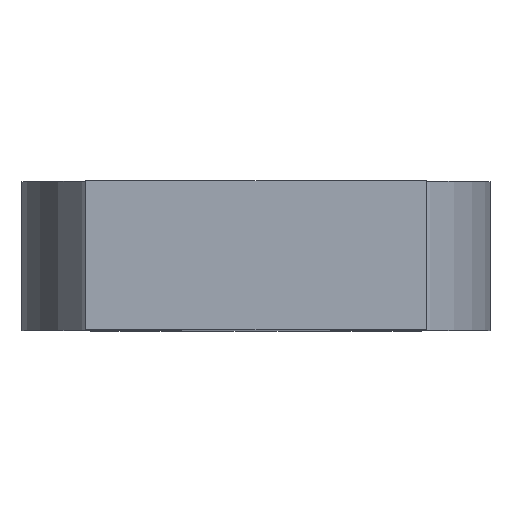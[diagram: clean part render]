
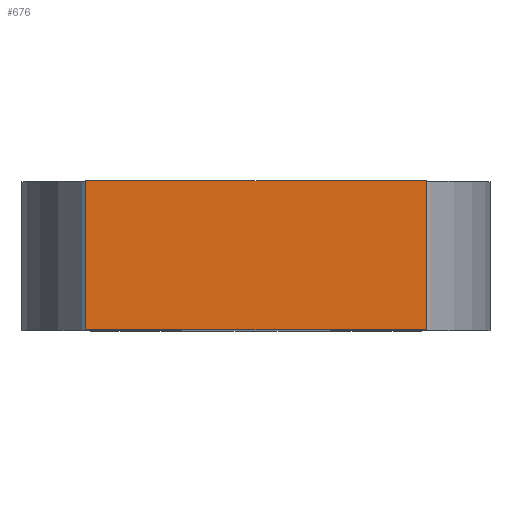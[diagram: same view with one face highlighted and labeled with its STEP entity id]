
A CAD part, top view. The second image highlights one B-rep face of the part: STEP entity #676.
In plain terms, the highlighted planar face has unit normal (0, 0, 1).
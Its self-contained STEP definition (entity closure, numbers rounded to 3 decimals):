
#51 = PLANE('',#52);
#52 = AXIS2_PLACEMENT_3D('',#53,#54,#55);
#53 = CARTESIAN_POINT('',(-30.7,6.1,-69.));
#54 = DIRECTION('',(0.,1.,0.));
#55 = DIRECTION('',(0.,-0.,1.));
#136 = VERTEX_POINT('',#137);
#137 = CARTESIAN_POINT('',(-31.6,6.1,-65.1));
#151 = PLANE('',#152);
#152 = AXIS2_PLACEMENT_3D('',#153,#154,#155);
#153 = CARTESIAN_POINT('',(-31.6,6.1,-66.5));
#154 = DIRECTION('',(1.,0.,0.));
#155 = DIRECTION('',(0.,0.,1.));
#163 = EDGE_CURVE('',#136,#164,#166,.T.);
#164 = VERTEX_POINT('',#165);
#165 = CARTESIAN_POINT('',(-28.4,6.1,-65.1));
#166 = SURFACE_CURVE('',#167,(#171,#178),.PCURVE_S1.);
#167 = LINE('',#168,#169);
#168 = CARTESIAN_POINT('',(-31.6,6.1,-65.1));
#169 = VECTOR('',#170,1.);
#170 = DIRECTION('',(1.,0.,0.));
#171 = PCURVE('',#51,#172);
#172 = DEFINITIONAL_REPRESENTATION('',(#173),#177);
#173 = LINE('',#174,#175);
#174 = CARTESIAN_POINT('',(3.9,-0.9));
#175 = VECTOR('',#176,1.);
#176 = DIRECTION('',(0.,1.));
#177 = ( GEOMETRIC_REPRESENTATION_CONTEXT(2) 
PARAMETRIC_REPRESENTATION_CONTEXT() REPRESENTATION_CONTEXT('2D SPACE',''
  ) );
#178 = PCURVE('',#179,#184);
#179 = PLANE('',#180);
#180 = AXIS2_PLACEMENT_3D('',#181,#182,#183);
#181 = CARTESIAN_POINT('',(-31.6,6.1,-65.1));
#182 = DIRECTION('',(0.,0.,1.));
#183 = DIRECTION('',(1.,0.,-0.));
#184 = DEFINITIONAL_REPRESENTATION('',(#185),#189);
#185 = LINE('',#186,#187);
#186 = CARTESIAN_POINT('',(0.,0.));
#187 = VECTOR('',#188,1.);
#188 = DIRECTION('',(1.,0.));
#189 = ( GEOMETRIC_REPRESENTATION_CONTEXT(2) 
PARAMETRIC_REPRESENTATION_CONTEXT() REPRESENTATION_CONTEXT('2D SPACE',''
  ) );
#207 = PLANE('',#208);
#208 = AXIS2_PLACEMENT_3D('',#209,#210,#211);
#209 = CARTESIAN_POINT('',(-28.4,6.1,-66.5));
#210 = DIRECTION('',(1.,0.,0.));
#211 = DIRECTION('',(0.,0.,1.));
#330 = PLANE('',#331);
#331 = AXIS2_PLACEMENT_3D('',#332,#333,#334);
#332 = CARTESIAN_POINT('',(-30.,7.5,-69.));
#333 = DIRECTION('',(0.,-1.,0.));
#334 = DIRECTION('',(1.,0.,0.));
#585 = VERTEX_POINT('',#586);
#586 = CARTESIAN_POINT('',(-31.6,7.5,-65.1));
#607 = EDGE_CURVE('',#136,#585,#608,.T.);
#608 = SURFACE_CURVE('',#609,(#613,#620),.PCURVE_S1.);
#609 = LINE('',#610,#611);
#610 = CARTESIAN_POINT('',(-31.6,6.1,-65.1));
#611 = VECTOR('',#612,1.);
#612 = DIRECTION('',(0.,1.,0.));
#613 = PCURVE('',#151,#614);
#614 = DEFINITIONAL_REPRESENTATION('',(#615),#619);
#615 = LINE('',#616,#617);
#616 = CARTESIAN_POINT('',(1.4,0.));
#617 = VECTOR('',#618,1.);
#618 = DIRECTION('',(0.,-1.));
#619 = ( GEOMETRIC_REPRESENTATION_CONTEXT(2) 
PARAMETRIC_REPRESENTATION_CONTEXT() REPRESENTATION_CONTEXT('2D SPACE',''
  ) );
#620 = PCURVE('',#179,#621);
#621 = DEFINITIONAL_REPRESENTATION('',(#622),#626);
#622 = LINE('',#623,#624);
#623 = CARTESIAN_POINT('',(0.,0.));
#624 = VECTOR('',#625,1.);
#625 = DIRECTION('',(0.,1.));
#626 = ( GEOMETRIC_REPRESENTATION_CONTEXT(2) 
PARAMETRIC_REPRESENTATION_CONTEXT() REPRESENTATION_CONTEXT('2D SPACE',''
  ) );
#634 = VERTEX_POINT('',#635);
#635 = CARTESIAN_POINT('',(-28.4,7.5,-65.1));
#656 = EDGE_CURVE('',#164,#634,#657,.T.);
#657 = SURFACE_CURVE('',#658,(#662,#669),.PCURVE_S1.);
#658 = LINE('',#659,#660);
#659 = CARTESIAN_POINT('',(-28.4,6.1,-65.1));
#660 = VECTOR('',#661,1.);
#661 = DIRECTION('',(0.,1.,0.));
#662 = PCURVE('',#207,#663);
#663 = DEFINITIONAL_REPRESENTATION('',(#664),#668);
#664 = LINE('',#665,#666);
#665 = CARTESIAN_POINT('',(1.4,0.));
#666 = VECTOR('',#667,1.);
#667 = DIRECTION('',(0.,-1.));
#668 = ( GEOMETRIC_REPRESENTATION_CONTEXT(2) 
PARAMETRIC_REPRESENTATION_CONTEXT() REPRESENTATION_CONTEXT('2D SPACE',''
  ) );
#669 = PCURVE('',#179,#670);
#670 = DEFINITIONAL_REPRESENTATION('',(#671),#675);
#671 = LINE('',#672,#673);
#672 = CARTESIAN_POINT('',(3.2,0.));
#673 = VECTOR('',#674,1.);
#674 = DIRECTION('',(0.,1.));
#675 = ( GEOMETRIC_REPRESENTATION_CONTEXT(2) 
PARAMETRIC_REPRESENTATION_CONTEXT() REPRESENTATION_CONTEXT('2D SPACE',''
  ) );
#676 = ADVANCED_FACE('',(#677),#179,.T.);
#677 = FACE_BOUND('',#678,.T.);
#678 = EDGE_LOOP('',(#679,#680,#681,#682));
#679 = ORIENTED_EDGE('',*,*,#607,.F.);
#680 = ORIENTED_EDGE('',*,*,#163,.T.);
#681 = ORIENTED_EDGE('',*,*,#656,.T.);
#682 = ORIENTED_EDGE('',*,*,#683,.F.);
#683 = EDGE_CURVE('',#585,#634,#684,.T.);
#684 = SURFACE_CURVE('',#685,(#689,#696),.PCURVE_S1.);
#685 = LINE('',#686,#687);
#686 = CARTESIAN_POINT('',(-31.6,7.5,-65.1));
#687 = VECTOR('',#688,1.);
#688 = DIRECTION('',(1.,0.,0.));
#689 = PCURVE('',#179,#690);
#690 = DEFINITIONAL_REPRESENTATION('',(#691),#695);
#691 = LINE('',#692,#693);
#692 = CARTESIAN_POINT('',(0.,1.4));
#693 = VECTOR('',#694,1.);
#694 = DIRECTION('',(1.,0.));
#695 = ( GEOMETRIC_REPRESENTATION_CONTEXT(2) 
PARAMETRIC_REPRESENTATION_CONTEXT() REPRESENTATION_CONTEXT('2D SPACE',''
  ) );
#696 = PCURVE('',#330,#697);
#697 = DEFINITIONAL_REPRESENTATION('',(#698),#702);
#698 = LINE('',#699,#700);
#699 = CARTESIAN_POINT('',(-1.6,3.9));
#700 = VECTOR('',#701,1.);
#701 = DIRECTION('',(1.,0.));
#702 = ( GEOMETRIC_REPRESENTATION_CONTEXT(2) 
PARAMETRIC_REPRESENTATION_CONTEXT() REPRESENTATION_CONTEXT('2D SPACE',''
  ) );
